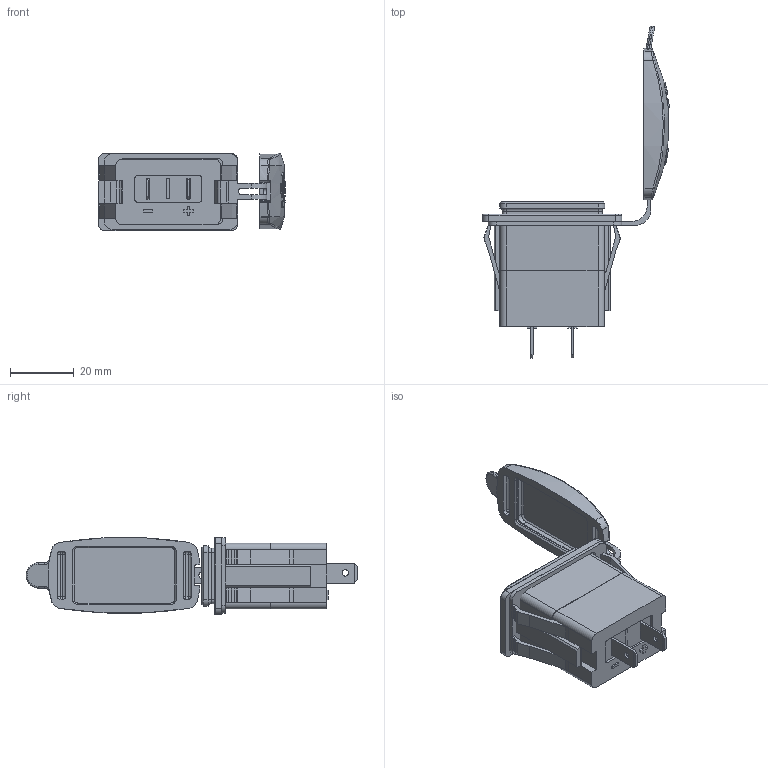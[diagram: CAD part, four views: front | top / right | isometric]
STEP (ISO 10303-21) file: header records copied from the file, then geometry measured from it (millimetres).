
FILE_DESCRIPTION(/* description */ (''),/* implementation_level */ '2;1');
FILE_NAME(/* name */ 'A6-USB2C-1-B.stp',/* time_stamp */ '2025-02-17T12:56:42-08:00',/* author */ ('tylerl'),/* organization */ (''),/* preprocessor_version */ 'ST-DEVELOPER v20',/* originating_system */ 'Autodesk Inventor 2025',/* authorisation */ '');
FILE_SCHEMA (('AUTOMOTIVE_DESIGN { 1 0 10303 214 3 1 1 }'));
Products named in the file (11): Assembly1; AS235; AS233¥¿·¥ºÝ¤l; UBSA¥ÀÂùª½´¡µL¸
}; AS235 ´ß(°ò®y); AS235 ¥»Åé¬[_µLLOGO; USB LED¾É¥ú¬W; AS235_AªO½u¸ôªO; AS235_BªO½u¸ôªO; AS235­t·¥ºÝ¤l; AS235 ¨¾¹Ð»\20160518_90«×
Assembly tree (10 placements, depth 3):
  Assembly1
    AS235
      AS233¥¿·¥ºÝ¤l
      UBSA¥ÀÂùª½´¡µL¸
}
      AS235 ´ß(°ò®y)
      AS235 ¥»Åé¬[_µLLOGO
      USB LED¾É¥ú¬W
      AS235_AªO½u¸ôªO
      AS235_BªO½u¸ôªO
      AS235­t·¥ºÝ¤l
      AS235 ¨¾¹Ð»\20160518_90«×
Bounding box: 58.74 x 104.41 x 24.23 mm (x, y, z)
Volume: 19147 mm3; surface area: 22874.2 mm2
Topology: 11 solids, 11 shells, 1306 faces, 3499 edges, 2267 vertices
Faces by surface type: plane 839, cylinder 206, bspline 205, cone 34, torus 14, sphere 8
Full cylindrical faces by diameter (mm): 0.7 x8, 2 x2
Entity records: 49046 total; most frequent: CARTESIAN_POINT 16938, ORIENTED_EDGE 6980, DIRECTION 5861, EDGE_CURVE 3490, LINE 2587, VECTOR 2587, VERTEX_POINT 2267, AXIS2_PLACEMENT_3D 1637
